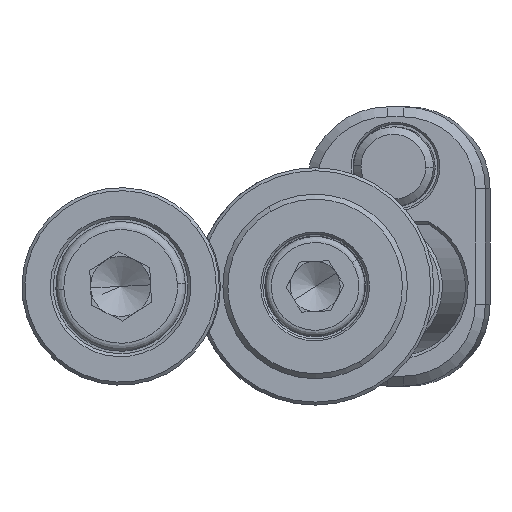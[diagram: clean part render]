
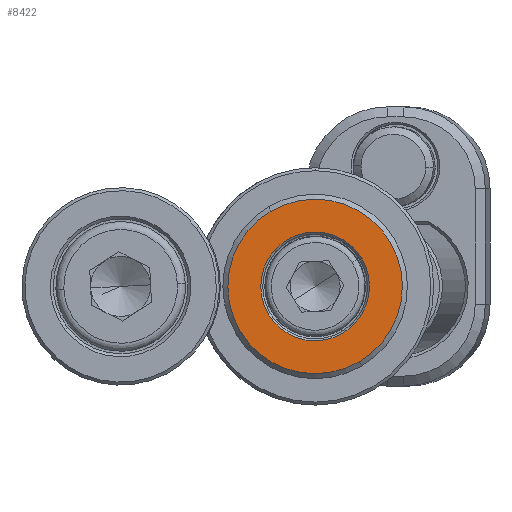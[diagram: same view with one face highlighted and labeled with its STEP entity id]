
A CAD part, front view. The second image highlights one B-rep face of the part: STEP entity #8422.
In plain terms, the highlighted planar face has unit normal (0, -1, 0).
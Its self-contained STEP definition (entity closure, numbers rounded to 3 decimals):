
#95 = CARTESIAN_POINT ( 'NONE',  ( 0., -4., 0. ) ) ;
#102 = FACE_BOUND ( 'NONE', #14146, .T. ) ;
#730 = VERTEX_POINT ( 'NONE', #14319 ) ;
#831 = EDGE_CURVE ( 'NONE', #8964, #1277, #6285, .T. ) ;
#863 = CARTESIAN_POINT ( 'NONE',  ( -2.753, -4., 4.704 ) ) ;
#865 = CIRCLE ( 'NONE', #8782, 8.75 ) ;
#1266 = CARTESIAN_POINT ( 'NONE',  ( 0., -4., 0. ) ) ;
#1277 = VERTEX_POINT ( 'NONE', #12907 ) ;
#1401 = CARTESIAN_POINT ( 'NONE',  ( 4.42, -4., -7.552 ) ) ;
#2124 = EDGE_CURVE ( 'NONE', #4686, #730, #9112, .T. ) ;
#2435 = DIRECTION ( 'NONE',  ( -0.505, 0., 0.863 ) ) ;
#2592 = DIRECTION ( 'NONE',  ( 0., 1., 0. ) ) ;
#2735 = DIRECTION ( 'NONE',  ( -0.505, 0., 0.863 ) ) ;
#3150 = ORIENTED_EDGE ( 'NONE', *, *, #4393, .T. ) ;
#4256 = DIRECTION ( 'NONE',  ( 0., 1., 0. ) ) ;
#4393 = EDGE_CURVE ( 'NONE', #1277, #8964, #5027, .T. ) ;
#4529 = EDGE_CURVE ( 'NONE', #730, #4686, #865, .T. ) ;
#4614 = DIRECTION ( 'NONE',  ( -0.505, 0., 0.863 ) ) ;
#4686 = VERTEX_POINT ( 'NONE', #1401 ) ;
#5027 = CIRCLE ( 'NONE', #8531, 5.45 ) ;
#6124 = ORIENTED_EDGE ( 'NONE', *, *, #831, .T. ) ;
#6285 = CIRCLE ( 'NONE', #7926, 5.45 ) ;
#7268 = DIRECTION ( 'NONE',  ( -0.505, 0., 0.863 ) ) ;
#7494 = ORIENTED_EDGE ( 'NONE', *, *, #4529, .T. ) ;
#7702 = ORIENTED_EDGE ( 'NONE', *, *, #2124, .T. ) ;
#7926 = AXIS2_PLACEMENT_3D ( 'NONE', #1266, #8910, #4614 ) ;
#8422 = ADVANCED_FACE ( 'NONE', ( #102, #8855 ), #11217, .F. ) ;
#8531 = AXIS2_PLACEMENT_3D ( 'NONE', #12086, #4256, #13018 ) ;
#8782 = AXIS2_PLACEMENT_3D ( 'NONE', #95, #9064, #2435 ) ;
#8855 = FACE_OUTER_BOUND ( 'NONE', #13610, .T. ) ;
#8910 = DIRECTION ( 'NONE',  ( 0., 1., 0. ) ) ;
#8964 = VERTEX_POINT ( 'NONE', #863 ) ;
#9064 = DIRECTION ( 'NONE',  ( 0., -1., 0. ) ) ;
#9112 = CIRCLE ( 'NONE', #13243, 8.75 ) ;
#10773 = AXIS2_PLACEMENT_3D ( 'NONE', #12515, #2592, #2735 ) ;
#11217 = PLANE ( 'NONE',  #10773 ) ;
#12086 = CARTESIAN_POINT ( 'NONE',  ( 0., -4., 0. ) ) ;
#12515 = CARTESIAN_POINT ( 'NONE',  ( -4.531, -4., -2.652 ) ) ;
#12775 = DIRECTION ( 'NONE',  ( 0., -1., 0. ) ) ;
#12907 = CARTESIAN_POINT ( 'NONE',  ( 2.753, -4., -4.704 ) ) ;
#13018 = DIRECTION ( 'NONE',  ( -0.505, 0., 0.863 ) ) ;
#13243 = AXIS2_PLACEMENT_3D ( 'NONE', #13797, #12775, #7268 ) ;
#13610 = EDGE_LOOP ( 'NONE', ( #7494, #7702 ) ) ;
#13797 = CARTESIAN_POINT ( 'NONE',  ( 0., -4., 0. ) ) ;
#14146 = EDGE_LOOP ( 'NONE', ( #3150, #6124 ) ) ;
#14319 = CARTESIAN_POINT ( 'NONE',  ( -4.42, -4., 7.552 ) ) ;
